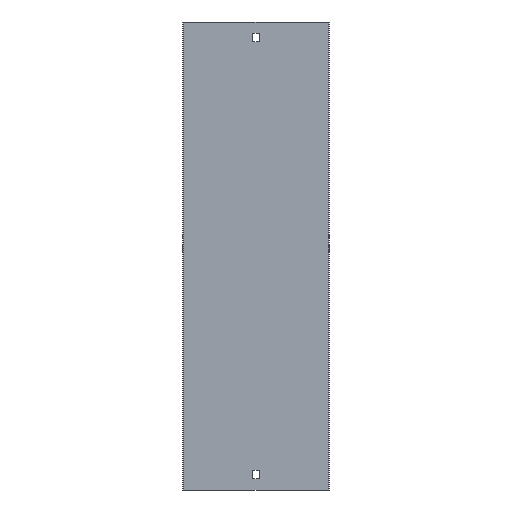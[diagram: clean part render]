
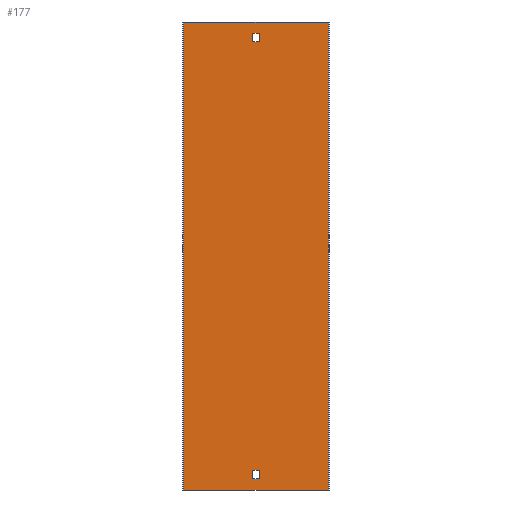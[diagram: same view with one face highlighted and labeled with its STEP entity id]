
A CAD part, front view. The second image highlights one B-rep face of the part: STEP entity #177.
In plain terms, the highlighted planar face has unit normal (0, -1, 0).
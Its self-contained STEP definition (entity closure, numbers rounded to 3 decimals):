
#4 = VECTOR ( 'NONE', #301, 1000. ) ;
#8 = DIRECTION ( 'NONE',  ( 0., 0., -1. ) ) ;
#20 = ORIENTED_EDGE ( 'NONE', *, *, #182, .T. ) ;
#29 = CARTESIAN_POINT ( 'NONE',  ( -77., -1.5, -250. ) ) ;
#32 = LINE ( 'NONE', #445, #381 ) ;
#33 = VERTEX_POINT ( 'NONE', #471 ) ;
#41 = ORIENTED_EDGE ( 'NONE', *, *, #478, .T. ) ;
#46 = DIRECTION ( 'NONE',  ( 0., 0., 1. ) ) ;
#53 = EDGE_CURVE ( 'NONE', #438, #193, #337, .T. ) ;
#63 = EDGE_LOOP ( 'NONE', ( #268, #476, #169, #287 ) ) ;
#65 = LINE ( 'NONE', #383, #143 ) ;
#70 = DIRECTION ( 'NONE',  ( 0., -1., 0. ) ) ;
#74 = FACE_OUTER_BOUND ( 'NONE', #167, .T. ) ;
#87 = CARTESIAN_POINT ( 'NONE',  ( -78.5, -1.5, 229. ) ) ;
#100 = CARTESIAN_POINT ( 'NONE',  ( 3.25, -1.5, 250. ) ) ;
#108 = DIRECTION ( 'NONE',  ( 0., 0., -1. ) ) ;
#116 = CARTESIAN_POINT ( 'NONE',  ( 77., -1.5, -250. ) ) ;
#121 = CARTESIAN_POINT ( 'NONE',  ( 3.25, -1.5, 250. ) ) ;
#122 = ORIENTED_EDGE ( 'NONE', *, *, #165, .F. ) ;
#124 = VECTOR ( 'NONE', #139, 1000. ) ;
#126 = VERTEX_POINT ( 'NONE', #116 ) ;
#130 = VERTEX_POINT ( 'NONE', #29 ) ;
#131 = CARTESIAN_POINT ( 'NONE',  ( 3.25, -1.5, 238. ) ) ;
#137 = LINE ( 'NONE', #87, #497 ) ;
#139 = DIRECTION ( 'NONE',  ( -1., 0., 0. ) ) ;
#143 = VECTOR ( 'NONE', #108, 1000. ) ;
#144 = LINE ( 'NONE', #100, #407 ) ;
#150 = DIRECTION ( 'NONE',  ( -1., 0., 0. ) ) ;
#152 = VECTOR ( 'NONE', #184, 1000. ) ;
#165 = EDGE_CURVE ( 'NONE', #126, #130, #435, .T. ) ;
#167 = EDGE_LOOP ( 'NONE', ( #122, #231, #347, #213 ) ) ;
#169 = ORIENTED_EDGE ( 'NONE', *, *, #242, .F. ) ;
#170 = DIRECTION ( 'NONE',  ( 0., 0., -1. ) ) ;
#173 = VECTOR ( 'NONE', #535, 1000. ) ;
#176 = CARTESIAN_POINT ( 'NONE',  ( -3.25, -1.5, -229. ) ) ;
#177 = ADVANCED_FACE ( 'NONE', ( #398, #74, #481 ), #443, .T. ) ;
#182 = EDGE_CURVE ( 'NONE', #187, #222, #212, .T. ) ;
#184 = DIRECTION ( 'NONE',  ( 1., 0., 0. ) ) ;
#187 = VERTEX_POINT ( 'NONE', #455 ) ;
#193 = VERTEX_POINT ( 'NONE', #270 ) ;
#206 = ORIENTED_EDGE ( 'NONE', *, *, #326, .T. ) ;
#208 = VERTEX_POINT ( 'NONE', #319 ) ;
#210 = VECTOR ( 'NONE', #150, 1000. ) ;
#212 = LINE ( 'NONE', #121, #587 ) ;
#213 = ORIENTED_EDGE ( 'NONE', *, *, #591, .T. ) ;
#216 = DIRECTION ( 'NONE',  ( 0., 0., -1. ) ) ;
#222 = VERTEX_POINT ( 'NONE', #509 ) ;
#228 = LINE ( 'NONE', #414, #342 ) ;
#231 = ORIENTED_EDGE ( 'NONE', *, *, #469, .F. ) ;
#242 = EDGE_CURVE ( 'NONE', #519, #438, #144, .T. ) ;
#260 = CARTESIAN_POINT ( 'NONE',  ( -77., -1.5, 250. ) ) ;
#266 = LINE ( 'NONE', #557, #124 ) ;
#268 = ORIENTED_EDGE ( 'NONE', *, *, #331, .F. ) ;
#270 = CARTESIAN_POINT ( 'NONE',  ( -3.25, -1.5, 238. ) ) ;
#272 = DIRECTION ( 'NONE',  ( 1., 0., 0. ) ) ;
#281 = EDGE_CURVE ( 'NONE', #208, #519, #137, .T. ) ;
#287 = ORIENTED_EDGE ( 'NONE', *, *, #281, .F. ) ;
#290 = CARTESIAN_POINT ( 'NONE',  ( -3.25, -1.5, 250. ) ) ;
#297 = ORIENTED_EDGE ( 'NONE', *, *, #573, .T. ) ;
#301 = DIRECTION ( 'NONE',  ( -1., 0., 0. ) ) ;
#306 = LINE ( 'NONE', #537, #4 ) ;
#309 = EDGE_CURVE ( 'NONE', #446, #460, #266, .T. ) ;
#319 = CARTESIAN_POINT ( 'NONE',  ( -3.25, -1.5, 229. ) ) ;
#326 = EDGE_CURVE ( 'NONE', #33, #526, #376, .T. ) ;
#331 = EDGE_CURVE ( 'NONE', #193, #208, #65, .T. ) ;
#337 = LINE ( 'NONE', #432, #210 ) ;
#342 = VECTOR ( 'NONE', #8, 1000. ) ;
#347 = ORIENTED_EDGE ( 'NONE', *, *, #309, .T. ) ;
#348 = CARTESIAN_POINT ( 'NONE',  ( -78.5, -1.5, 250. ) ) ;
#376 = LINE ( 'NONE', #290, #577 ) ;
#381 = VECTOR ( 'NONE', #170, 1000. ) ;
#383 = CARTESIAN_POINT ( 'NONE',  ( -3.25, -1.5, 250. ) ) ;
#386 = DIRECTION ( 'NONE',  ( 0., 0., 1. ) ) ;
#391 = CARTESIAN_POINT ( 'NONE',  ( -78.5, -1.5, -250. ) ) ;
#396 = DIRECTION ( 'NONE',  ( 0., 0., -1. ) ) ;
#398 = FACE_BOUND ( 'NONE', #63, .T. ) ;
#403 = CARTESIAN_POINT ( 'NONE',  ( 77., -1.5, 250. ) ) ;
#407 = VECTOR ( 'NONE', #46, 1000. ) ;
#409 = AXIS2_PLACEMENT_3D ( 'NONE', #348, #70, #216 ) ;
#414 = CARTESIAN_POINT ( 'NONE',  ( -77., -1.5, 250. ) ) ;
#432 = CARTESIAN_POINT ( 'NONE',  ( -78.5, -1.5, 238. ) ) ;
#435 = LINE ( 'NONE', #391, #173 ) ;
#438 = VERTEX_POINT ( 'NONE', #131 ) ;
#443 = PLANE ( 'NONE',  #409 ) ;
#445 = CARTESIAN_POINT ( 'NONE',  ( 77., -1.5, 250. ) ) ;
#446 = VERTEX_POINT ( 'NONE', #403 ) ;
#449 = CARTESIAN_POINT ( 'NONE',  ( -78.5, -1.5, -229. ) ) ;
#451 = LINE ( 'NONE', #449, #152 ) ;
#455 = CARTESIAN_POINT ( 'NONE',  ( 3.25, -1.5, -229. ) ) ;
#460 = VERTEX_POINT ( 'NONE', #260 ) ;
#469 = EDGE_CURVE ( 'NONE', #446, #126, #32, .T. ) ;
#470 = EDGE_LOOP ( 'NONE', ( #41, #206, #297, #20 ) ) ;
#471 = CARTESIAN_POINT ( 'NONE',  ( -3.25, -1.5, -238. ) ) ;
#476 = ORIENTED_EDGE ( 'NONE', *, *, #53, .F. ) ;
#478 = EDGE_CURVE ( 'NONE', #222, #33, #306, .T. ) ;
#481 = FACE_BOUND ( 'NONE', #470, .T. ) ;
#488 = CARTESIAN_POINT ( 'NONE',  ( 3.25, -1.5, 229. ) ) ;
#497 = VECTOR ( 'NONE', #272, 1000. ) ;
#509 = CARTESIAN_POINT ( 'NONE',  ( 3.25, -1.5, -238. ) ) ;
#519 = VERTEX_POINT ( 'NONE', #488 ) ;
#526 = VERTEX_POINT ( 'NONE', #176 ) ;
#535 = DIRECTION ( 'NONE',  ( -1., 0., 0. ) ) ;
#537 = CARTESIAN_POINT ( 'NONE',  ( -78.5, -1.5, -238. ) ) ;
#557 = CARTESIAN_POINT ( 'NONE',  ( -78.5, -1.5, 250. ) ) ;
#573 = EDGE_CURVE ( 'NONE', #526, #187, #451, .T. ) ;
#577 = VECTOR ( 'NONE', #386, 1000. ) ;
#587 = VECTOR ( 'NONE', #396, 1000. ) ;
#591 = EDGE_CURVE ( 'NONE', #460, #130, #228, .T. ) ;
